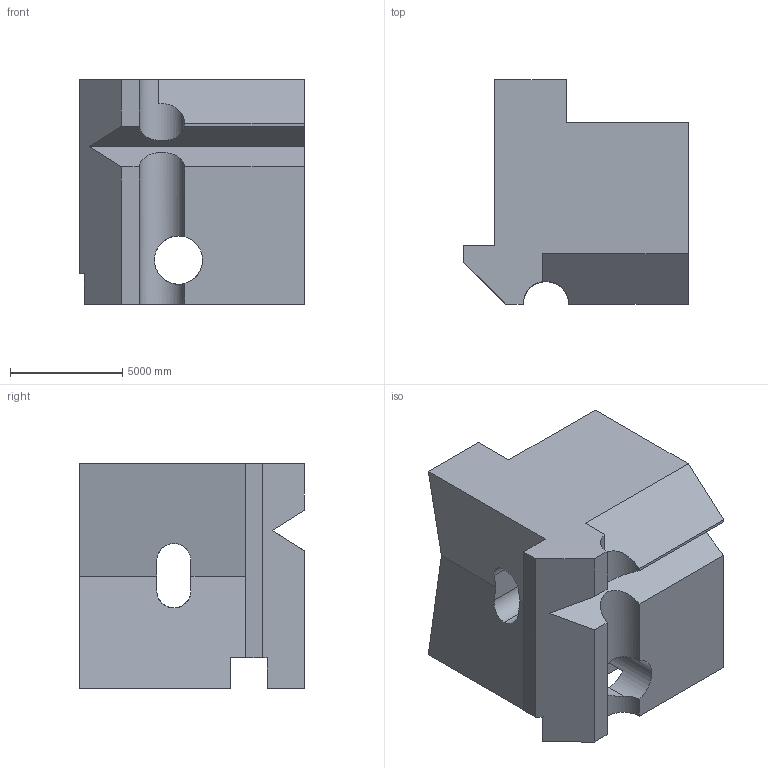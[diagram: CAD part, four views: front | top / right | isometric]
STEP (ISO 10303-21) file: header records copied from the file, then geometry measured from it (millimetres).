
FILE_DESCRIPTION (( 'STEP AP203' ), '1' );
FILE_NAME ('970.STEP', '2022-07-29T14:48:32', ( 'user' ), ( '' ), 'SwSTEP 2.0', 'SolidWorks 2021', '' );
FILE_SCHEMA (( 'CONFIG_CONTROL_DESIGN' ));
Length unit declared in the file: centimetre
Products named in the file (1): 970
Bounding box: 10000 x 10000 x 10000 mm (x, y, z)
Volume: 592756270370 mm3; surface area: 670363108.8 mm2
Topology: 1 solids, 1 shells, 40 faces, 129 edges, 86 vertices
Faces by surface type: plane 31, cylinder 9
Entity records: 1714 total; most frequent: CARTESIAN_POINT 506, ORIENTED_EDGE 258, DIRECTION 214, EDGE_CURVE 129, LINE 102, VECTOR 102, VERTEX_POINT 86, AXIS2_PLACEMENT_3D 56
